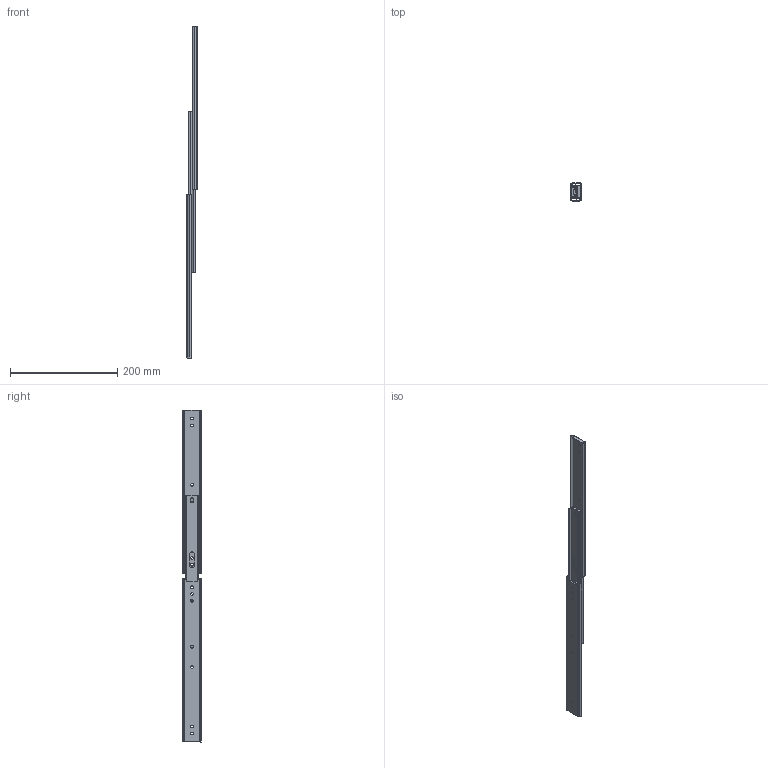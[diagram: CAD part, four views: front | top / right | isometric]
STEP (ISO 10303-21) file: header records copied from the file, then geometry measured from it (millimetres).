
FILE_DESCRIPTION (( 'STEP AP214' ), '1' );
FILE_NAME ('3560-300-open.STEP', '2024-08-20T06:09:25', ( '' ), ( '' ), 'SwSTEP 2.0', 'SolidWorks 2024', '' );
FILE_SCHEMA (( 'AUTOMOTIVE_DESIGN' ));
Length unit declared in the file: millimetre
Products named in the file (4): CAD_3560-300_TelescopicRailLight_Rollco.stp_Assem1; 26065P3-12''''.stp_Part2; 26065P1-12''''.stp_Part1; 3560-300-open
Assembly tree (5 placements, depth 3):
  3560-300-open
    CAD_3560-300_TelescopicRailLight_Rollco.stp_Assem1
      26065P1-12''''.stp_Part1  x2
      26065P3-12''''.stp_Part2  x2
Bounding box: 19.6 x 35.28 x 619.6 mm (x, y, z)
Surface area: 99730.9 mm2 (no closed solid volume)
Topology: 0 solids, 4 shells, 298 faces, 858 edges, 568 vertices
Faces by surface type: cylinder 158, plane 140
Entity records: 6297 total; most frequent: CARTESIAN_POINT 3073, ORIENTED_EDGE 858, EDGE_CURVE 429, B_SPLINE_CURVE_WITH_KNOTS 416, DIRECTION 329, VERTEX_POINT 284, EDGE_LOOP 171, AXIS2_PLACEMENT_3D 158
